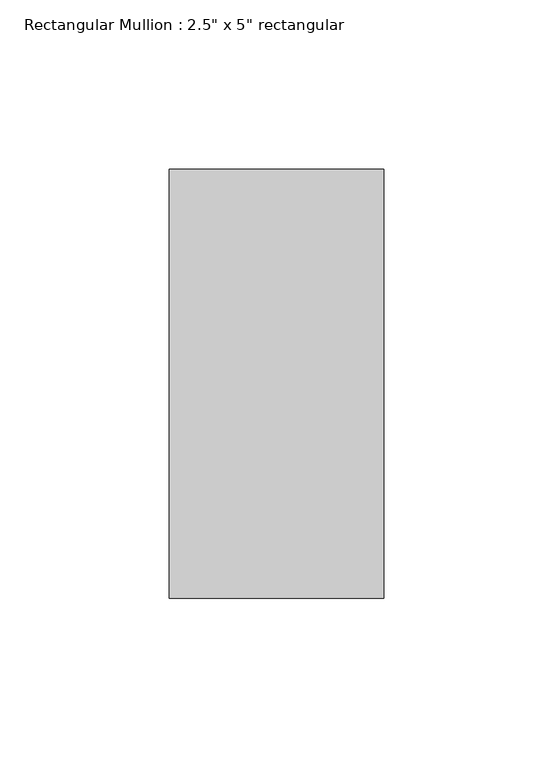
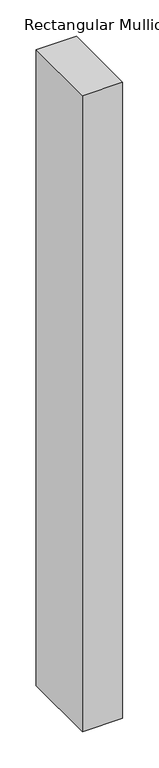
"""IFC4 building model written with IfcOpenShell, lengths in millimetres: member geometry."""

import ifcopenshell
import ifcopenshell.guid

model = None  # the IFC model being written
_history = None  # IfcOwnerHistory: only IFC2X3 demands one
_inside = {}  # id of a spatial element -> (the spatial element, [elements in it])
_under = {}  # id of a project, library or spatial element -> (it, [spatial elements below it])
_declared = {}  # id of a project -> (the project, [libraries it declares])
_typed = {}  # id of a type object -> (the type object, [elements of that type])
_made_of = {}  # id of a material, layer set ... -> (it, [elements and type objects made of it])


def new_model(schema):
    """Start an empty IFC model of exactly this schema.

    Asked for "IFC4X3", IfcOpenShell would pick the latest addendum, in which some entities
    have other attributes; the version numbers below select the first issue.
    IFC2X3 requires an IfcOwnerHistory on every rooted entity: one is made here for all.
    """
    global model, _history
    if schema == "IFC4X3":
        model = ifcopenshell.file(schema_version=(4, 3, 0, 0))
    else:
        model = ifcopenshell.file(schema=schema)
    _inside.clear()
    _under.clear()
    _declared.clear()
    _typed.clear()
    _made_of.clear()
    _history = None
    if model.schema == "IFC2X3":
        org = make("IfcOrganization", Name="unknown")
        user = make(
            "IfcPersonAndOrganization",
            ThePerson=make("IfcPerson", FamilyName="unknown"),
            TheOrganization=org,
        )
        app = make(
            "IfcApplication",
            ApplicationDeveloper=org,
            Version="unknown",
            ApplicationFullName="unknown",
            ApplicationIdentifier="unknown",
        )
        _history = make(
            "IfcOwnerHistory",
            OwningUser=user,
            OwningApplication=app,
            ChangeAction="ADDED",
            CreationDate=0,
        )
    return model


def make(cls, **values):
    """One entity of the class cls with the attributes given. An attribute that is None is left unset."""
    return model.create_entity(
        cls, **{name: value for name, value in values.items() if value is not None}
    )


def rooted(cls, **values):
    """An entity with a GlobalId (a new one), such as an element, a storey or a relation."""
    return make(cls, GlobalId=ifcopenshell.guid.new(), OwnerHistory=_history, **values)


def si_unit(unit_type, name, prefix=None):
    """IfcSIUnit, for example si_unit("LENGTHUNIT", "METRE", prefix="MILLI")."""
    return make("IfcSIUnit", UnitType=unit_type, Prefix=prefix, Name=name)


def assignment(units):
    """IfcUnitAssignment: the units of a project."""
    return None if units is None else make("IfcUnitAssignment", Units=units)


def point(xyz):
    """IfcCartesianPoint."""
    return None if xyz is None else make("IfcCartesianPoint", Coordinates=xyz)


def direction(xyz):
    """IfcDirection."""
    return None if xyz is None else make("IfcDirection", DirectionRatios=xyz)


def frame(location, z_axis=None, x_axis=None):
    """IfcAxis2Placement3D, a coordinate frame: its origin and axes. An axis left out is left unset."""
    return make(
        "IfcAxis2Placement3D",
        Location=point(location),
        Axis=direction(z_axis),
        RefDirection=direction(x_axis),
    )


def origin():
    """The frame at (0, 0, 0) with its axes left unset."""
    return frame((0.0, 0.0, 0.0))


def place(relative_to, where):
    """IfcLocalPlacement: puts the frame where relative to a parent placement (None: the world)."""
    return make(
        "IfcLocalPlacement", PlacementRelTo=relative_to, RelativePlacement=where
    )


def context(
    kind, dimensions, precision=None, world=None, true_north=None, identifier=None
):
    """IfcGeometricRepresentationContext, for example the 3D "Model" context."""
    return make(
        "IfcGeometricRepresentationContext",
        ContextIdentifier=identifier,
        ContextType=kind,
        CoordinateSpaceDimension=dimensions,
        Precision=precision,
        WorldCoordinateSystem=world,
        TrueNorth=true_north,
    )


def project(units=None, contexts=None):
    """IfcProject with its units and contexts."""
    return rooted(
        "IfcProject",
        Name="project",
        RepresentationContexts=contexts,
        UnitsInContext=assignment(units),
    )


def spatial(cls, under=None, at=None, **own):
    """A site, building, storey or space (cls), placed at a placement, below another one or the project."""
    s = rooted(cls, ObjectPlacement=at, **own)
    if under is not None:
        _under.setdefault(under.id(), (under, []))[1].append(s)
    return s


def polyline(points):
    """IfcPolyline through the points."""
    return make("IfcPolyline", Points=[point(p) for p in points])


def outline(outer, holes=None, kind="AREA"):
    """IfcArbitraryClosedProfileDef: a profile drawn as a closed curve; with holes, ...WithVoids."""
    if holes is None:
        return make("IfcArbitraryClosedProfileDef", ProfileType=kind, OuterCurve=outer)
    return make(
        "IfcArbitraryProfileDefWithVoids",
        ProfileType=kind,
        OuterCurve=outer,
        InnerCurves=holes,
    )


def extrude(swept, where, along, depth):
    """IfcExtrudedAreaSolid: the profile swept, set in the frame where, extruded along a direction by depth."""
    return make(
        "IfcExtrudedAreaSolid",
        SweptArea=swept,
        Position=where,
        ExtrudedDirection=direction(along),
        Depth=depth,
    )


def shape(context_of_items, identifier, shape_type, items):
    """IfcShapeRepresentation: the items that make up one representation, for example the "Body"."""
    return make(
        "IfcShapeRepresentation",
        ContextOfItems=context_of_items,
        RepresentationIdentifier=identifier,
        RepresentationType=shape_type,
        Items=items,
    )


def source(mapping_origin, context_of_items, identifier, shape_type, items):
    """IfcRepresentationMap: a shape defined once, which mapped items show again and again."""
    return make(
        "IfcRepresentationMap",
        MappingOrigin=mapping_origin,
        MappedRepresentation=shape(context_of_items, identifier, shape_type, items),
    )


def transform(
    local_origin,
    x_axis=None,
    y_axis=None,
    z_axis=None,
    scale=None,
    scale2=None,
    scale3=None,
    uniform=True,
):
    """IfcCartesianTransformationOperator3D, or its non-uniform kind. x_axis, y_axis, z_axis: its Axis1, 2, 3."""
    if uniform:
        return make(
            "IfcCartesianTransformationOperator3D",
            Axis1=direction(x_axis),
            Axis2=direction(y_axis),
            LocalOrigin=point(local_origin),
            Scale=scale,
            Axis3=direction(z_axis),
        )
    return make(
        "IfcCartesianTransformationOperator3DnonUniform",
        Axis1=direction(x_axis),
        Axis2=direction(y_axis),
        LocalOrigin=point(local_origin),
        Scale=scale,
        Axis3=direction(z_axis),
        Scale2=scale2,
        Scale3=scale3,
    )


def mapped(mapping_source, mapping_target):
    """IfcMappedItem: shows the shape of a source again, moved by a transform."""
    return make(
        "IfcMappedItem", MappingSource=mapping_source, MappingTarget=mapping_target
    )


def made_of(thing, what):
    """Note that an element or type object is made of a material, layer set ...; save() writes the relation."""
    if what is not None:
        _made_of.setdefault(what.id(), (what, []))[1].append(thing)
    return thing


def element(
    cls,
    number,
    at=None,
    inside=None,
    cuts=None,
    type_object=None,
    material=None,
    context=None,
    identifier="Body",
    shape_type=None,
    held_by="IfcProductDefinitionShape",
    body=None,
    shapes=None,
    **own,
):
    """One element of the class cls, such as IfcWall. Its Tag is "e" and its number.

    at: its placement. inside: the storey or other place that contains it. cuts: it is an
    opening in that element (IfcRelVoidsElement). A single representation is given by context,
    identifier, shape_type and body (its items); several are given by shapes. held_by: the class
    of the entity that holds the representations. save() writes the other relations.
    """
    e = rooted(cls, Tag="e%d" % number, ObjectPlacement=at, **own)
    if body is not None:
        shapes = [shape(context, identifier, shape_type, body)]
    if shapes is not None:
        e.Representation = make(held_by, Representations=shapes)
    if inside is not None:
        _inside.setdefault(inside.id(), (inside, []))[1].append(e)
    if cuts is not None:
        rooted(
            "IfcRelVoidsElement", RelatingBuildingElement=cuts, RelatedOpeningElement=e
        )
    if type_object is not None:
        _typed.setdefault(type_object.id(), (type_object, []))[1].append(e)
    return made_of(e, material)


def aggregate(whole, parts):
    """IfcRelAggregates: a whole, such as a stair, and the parts it consists of."""
    return rooted("IfcRelAggregates", RelatingObject=whole, RelatedObjects=parts)


def save(model, path):
    """Write the relations noted so far, then the file.

    IfcRelAggregates (storeys below a building ...), IfcRelContainedInSpatialStructure (elements
    in a storey), IfcRelDefinesByType, IfcRelAssociatesMaterial and IfcRelDeclares: one each for
    every whole, place, type object, material and project.
    """
    for whole, parts in _under.values():
        aggregate(whole, parts)
    for where, things in _inside.values():
        rooted(
            "IfcRelContainedInSpatialStructure",
            RelatedElements=things,
            RelatingStructure=where,
        )
    for kind, things in _typed.values():
        rooted("IfcRelDefinesByType", RelatedObjects=things, RelatingType=kind)
    for what, things in _made_of.values():
        rooted("IfcRelAssociatesMaterial", RelatedObjects=things, RelatingMaterial=what)
    for by, libraries in _declared.values():
        rooted("IfcRelDeclares", RelatingContext=by, RelatedDefinitions=libraries)
    model.write(path)


def member_a8cc26e5(model_context):
    return source(origin(), model_context, "Body", "SweptSolid", [
        extrude(outline(polyline([(31.75, 63.5), (31.75, -63.5), (-31.75, -63.5), (-31.75, 63.5), (31.75, 63.5)])), frame((0.0, 0.0, -1063.9537845), z_axis=(0.0, 0.0, 1.0), x_axis=(1.0, 0.0, 0.0)), (0.0, 0.0, 1.0), 1063.9537845),
    ])


if __name__ == "__main__":
    model = new_model("IFC4")
    model_context = context("Model", 3, world=origin())
    ifc_project = project(units=[si_unit("LENGTHUNIT", "METRE", prefix="MILLI")], contexts=[model_context])
    site = spatial("IfcSite", under=ifc_project)
    building = spatial("IfcBuilding", under=site)
    placement = place(None, origin())
    member_shape = member_a8cc26e5(model_context)
    element("IfcMember", 1, ObjectType="Rectangular Mullion : 2.5\" x 5\" rectangular", at=placement, inside=building, context=model_context, shape_type="MappedRepresentation", body=[
        mapped(member_shape, transform((0.0, 0.0, 0.0), x_axis=(1.0, 0.0, 0.0), y_axis=(0.0, 1.0, 0.0), z_axis=(0.0, 0.0, 1.0))),
    ])
    save(model, "model.ifc")
